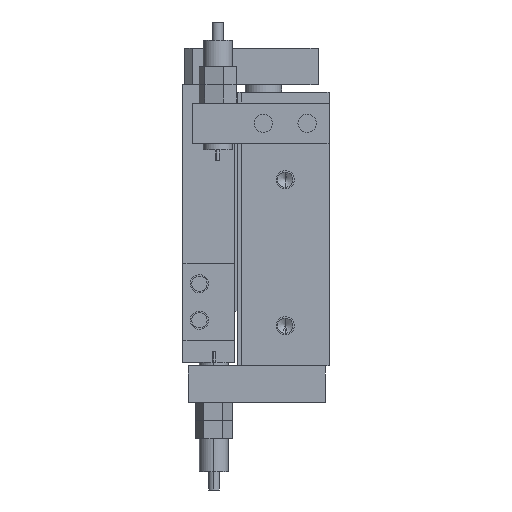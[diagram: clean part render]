
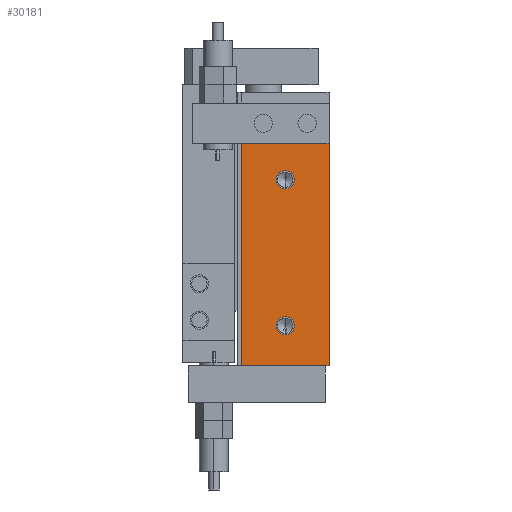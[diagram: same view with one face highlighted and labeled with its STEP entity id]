
A CAD part, left-side view. The second image highlights one B-rep face of the part: STEP entity #30181.
In plain terms, the highlighted planar face has unit normal (-1, 0, 0) as drawn and (1, 0, 0) by its records, which use the part's own axes.
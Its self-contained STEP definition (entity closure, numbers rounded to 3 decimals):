
#4624 = CARTESIAN_POINT ( 'NONE',  ( 62., -3., 75. ) ) ;
#4625 = DIRECTION ( 'NONE',  ( -1., 0., 0. ) ) ;
#4626 = PLANE ( 'NONE',  #4628 ) ;
#4627 = DIRECTION ( 'NONE',  ( 0., 0., 1. ) ) ;
#4628 = AXIS2_PLACEMENT_3D ( 'NONE', #4624, #4625, #4627 ) ;
#21110 = CARTESIAN_POINT ( 'NONE',  ( 62., 9., 66.5 ) ) ;
#21130 = DIRECTION ( 'NONE',  ( 0., 0., -1. ) ) ;
#21131 = DIRECTION ( 'NONE',  ( 1., 0., 0. ) ) ;
#21132 = CARTESIAN_POINT ( 'NONE',  ( 62., 9., 64. ) ) ;
#21137 = CIRCLE ( 'NONE', #21142, 2.5 ) ;
#21142 = AXIS2_PLACEMENT_3D ( 'NONE', #21132, #21131, #21130 ) ;
#21248 = CARTESIAN_POINT ( 'NONE',  ( 62., 9., 61.5 ) ) ;
#22266 = CARTESIAN_POINT ( 'NONE',  ( 62., 9., 26.5 ) ) ;
#22302 = DIRECTION ( 'NONE',  ( 0., 0., -1. ) ) ;
#22303 = DIRECTION ( 'NONE',  ( 1., 0., 0. ) ) ;
#22304 = CARTESIAN_POINT ( 'NONE',  ( 62., 9., 24. ) ) ;
#22305 = AXIS2_PLACEMENT_3D ( 'NONE', #22304, #22303, #22302 ) ;
#22575 = CIRCLE ( 'NONE', #22305, 2.5 ) ;
#22686 = CARTESIAN_POINT ( 'NONE',  ( 62., 9., 21.5 ) ) ;
#23102 = DIRECTION ( 'NONE',  ( 0., 1., 0. ) ) ;
#23103 = VECTOR ( 'NONE', #23102, 1000. ) ;
#23104 = CARTESIAN_POINT ( 'NONE',  ( 62., -3., 75. ) ) ;
#23105 = LINE ( 'NONE', #23104, #23103 ) ;
#23110 = CARTESIAN_POINT ( 'NONE',  ( 62., -3., 75. ) ) ;
#23141 = CARTESIAN_POINT ( 'NONE',  ( 62., 21., 75. ) ) ;
#23554 = CARTESIAN_POINT ( 'NONE',  ( 62., 9., 24. ) ) ;
#23560 = DIRECTION ( 'NONE',  ( 0., 0., -1. ) ) ;
#23561 = VECTOR ( 'NONE', #23560, 1000. ) ;
#23576 = CARTESIAN_POINT ( 'NONE',  ( 62., 21., 75. ) ) ;
#23577 = LINE ( 'NONE', #23576, #23561 ) ;
#23588 = AXIS2_PLACEMENT_3D ( 'NONE', #23554, #23599, #23650 ) ;
#23589 = CIRCLE ( 'NONE', #23588, 2.5 ) ;
#23599 = DIRECTION ( 'NONE',  ( 1., 0., 0. ) ) ;
#23617 = FACE_OUTER_BOUND ( 'NONE', #30937, .T. ) ;
#23619 = DIRECTION ( 'NONE',  ( 0., 1., 0. ) ) ;
#23620 = VECTOR ( 'NONE', #23619, 1000. ) ;
#23625 = FACE_BOUND ( 'NONE', #30152, .T. ) ;
#23629 = FACE_BOUND ( 'NONE', #31003, .T. ) ;
#23630 = CARTESIAN_POINT ( 'NONE',  ( 62., -3., 14. ) ) ;
#23631 = LINE ( 'NONE', #23630, #23620 ) ;
#23650 = DIRECTION ( 'NONE',  ( 0., 0., -1. ) ) ;
#23670 = DIRECTION ( 'NONE',  ( 0., 0., -1. ) ) ;
#23671 = DIRECTION ( 'NONE',  ( 1., 0., 0. ) ) ;
#23672 = CARTESIAN_POINT ( 'NONE',  ( 62., 9., 64. ) ) ;
#23673 = AXIS2_PLACEMENT_3D ( 'NONE', #23672, #23671, #23670 ) ;
#23683 = CIRCLE ( 'NONE', #23673, 2.5 ) ;
#23798 = CARTESIAN_POINT ( 'NONE',  ( 62., -3., 14. ) ) ;
#24458 = LINE ( 'NONE', #24504, #24503 ) ;
#24502 = DIRECTION ( 'NONE',  ( 0., 0., -1. ) ) ;
#24503 = VECTOR ( 'NONE', #24502, 1000. ) ;
#24504 = CARTESIAN_POINT ( 'NONE',  ( 62., -3., 75. ) ) ;
#25222 = CARTESIAN_POINT ( 'NONE',  ( 62., 21., 14. ) ) ;
#29355 = VERTEX_POINT ( 'NONE', #21110 ) ;
#29378 = EDGE_CURVE ( 'NONE', #29355, #29487, #21137, .T. ) ;
#29487 = VERTEX_POINT ( 'NONE', #21248 ) ;
#29658 = VERTEX_POINT ( 'NONE', #22266 ) ;
#29742 = EDGE_CURVE ( 'NONE', #29658, #29773, #22575, .T. ) ;
#29773 = VERTEX_POINT ( 'NONE', #22686 ) ;
#29869 = EDGE_CURVE ( 'NONE', #29873, #29889, #23105, .T. ) ;
#29873 = VERTEX_POINT ( 'NONE', #23110 ) ;
#29889 = VERTEX_POINT ( 'NONE', #23141 ) ;
#30122 = ORIENTED_EDGE ( 'NONE', *, *, #30169, .F. ) ;
#30144 = EDGE_CURVE ( 'NONE', #29889, #30988, #23577, .T. ) ;
#30152 = EDGE_LOOP ( 'NONE', ( #30122, #30542 ) ) ;
#30169 = EDGE_CURVE ( 'NONE', #29773, #29658, #23589, .T. ) ;
#30172 = ORIENTED_EDGE ( 'NONE', *, *, #29378, .F. ) ;
#30180 = EDGE_CURVE ( 'NONE', #30268, #30988, #23631, .T. ) ;
#30181 = ADVANCED_FACE ( 'NONE', ( #23629, #23625, #23617 ), #4626, .F. ) ;
#30184 = EDGE_CURVE ( 'NONE', #29487, #29355, #23683, .T. ) ;
#30187 = ORIENTED_EDGE ( 'NONE', *, *, #30184, .F. ) ;
#30221 = ORIENTED_EDGE ( 'NONE', *, *, #30144, .F. ) ;
#30234 = ORIENTED_EDGE ( 'NONE', *, *, #30521, .T. ) ;
#30242 = ORIENTED_EDGE ( 'NONE', *, *, #29869, .F. ) ;
#30268 = VERTEX_POINT ( 'NONE', #23798 ) ;
#30521 = EDGE_CURVE ( 'NONE', #29873, #30268, #24458, .T. ) ;
#30542 = ORIENTED_EDGE ( 'NONE', *, *, #29742, .F. ) ;
#30937 = EDGE_LOOP ( 'NONE', ( #30951, #30221, #30242, #30234 ) ) ;
#30951 = ORIENTED_EDGE ( 'NONE', *, *, #30180, .T. ) ;
#30988 = VERTEX_POINT ( 'NONE', #25222 ) ;
#31003 = EDGE_LOOP ( 'NONE', ( #30187, #30172 ) ) ;
